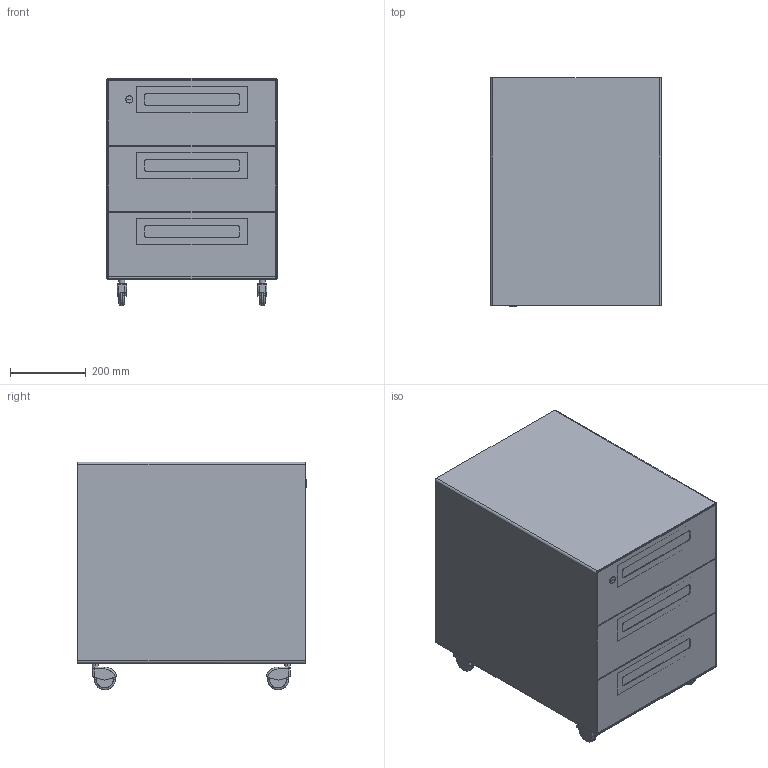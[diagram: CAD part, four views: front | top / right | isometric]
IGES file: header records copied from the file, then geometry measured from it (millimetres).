
Start section: Comment
Global section: file name: R40-1.igs; native system:  By UGS Corp.; preprocessor: XPlus GENERIC/IGES 3.0; author: Author; organization: Title; date: 20170209.122318; units: inch
Bounding box: 450 x 602 x 599.97 mm (x, y, z)
Surface area: 1800659.6 mm2 (no closed solid volume)
Topology: 0 solids, 0 shells, 220 faces, 1076 edges, 1060 vertices
Faces by surface type: bspline 220
